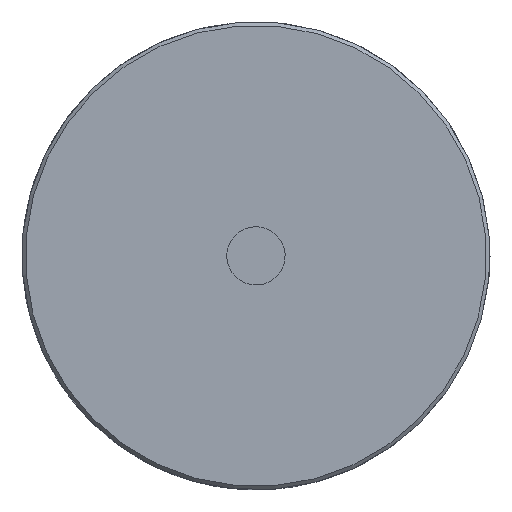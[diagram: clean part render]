
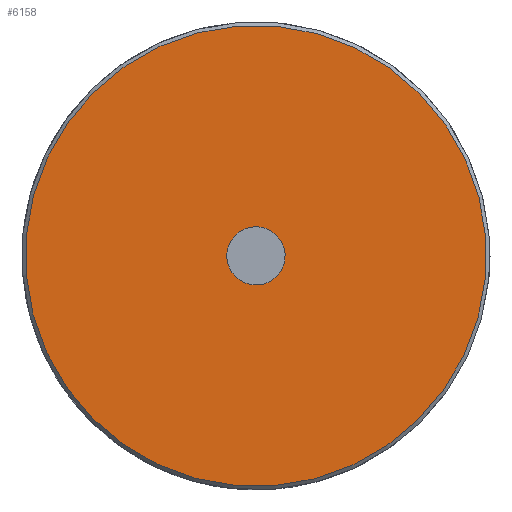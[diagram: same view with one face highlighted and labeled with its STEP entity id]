
A CAD part, front view. The second image highlights one B-rep face of the part: STEP entity #6158.
In plain terms, the highlighted planar face has unit normal (0, -1, 0).
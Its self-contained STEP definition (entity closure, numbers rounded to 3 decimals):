
#379 = FACE_OUTER_BOUND ( 'NONE', #9406, .T. ) ;
#1584 = DIRECTION ( 'NONE',  ( 0., 1., 0. ) ) ;
#2330 = ORIENTED_EDGE ( 'NONE', *, *, #8785, .F. ) ;
#3449 = DIRECTION ( 'NONE',  ( 0., 1., 0. ) ) ;
#3537 = DIRECTION ( 'NONE',  ( 1., 0., 0. ) ) ;
#4001 = EDGE_LOOP ( 'NONE', ( #18453 ) ) ;
#4221 = AXIS2_PLACEMENT_3D ( 'NONE', #4445, #1584, #4631 ) ;
#4445 = CARTESIAN_POINT ( 'NONE',  ( 52., -149.5, -3.527 ) ) ;
#4631 = DIRECTION ( 'NONE',  ( 0.702, 0., -0.712 ) ) ;
#4875 = CARTESIAN_POINT ( 'NONE',  ( -40.908, -149.5, -95.17 ) ) ;
#5304 = DIRECTION ( 'NONE',  ( 0., 1., 0. ) ) ;
#6158 = ADVANCED_FACE ( 'NONE', ( #379, #16582 ), #17937, .F. ) ;
#6920 = CARTESIAN_POINT ( 'NONE',  ( 52., -149.5, -3.527 ) ) ;
#8785 = EDGE_CURVE ( 'NONE', #17765, #17765, #18229, .T. ) ;
#9406 = EDGE_LOOP ( 'NONE', ( #2330 ) ) ;
#9593 = AXIS2_PLACEMENT_3D ( 'NONE', #4875, #3449, #3537 ) ;
#10965 = CARTESIAN_POINT ( 'NONE',  ( 63.587, -149.5, -15.274 ) ) ;
#12624 = DIRECTION ( 'NONE',  ( 0.702, 0., -0.712 ) ) ;
#13960 = EDGE_CURVE ( 'NONE', #16907, #16907, #15422, .T. ) ;
#15422 = CIRCLE ( 'NONE', #18181, 16.5 ) ;
#16582 = FACE_BOUND ( 'NONE', #4001, .T. ) ;
#16907 = VERTEX_POINT ( 'NONE', #10965 ) ;
#17676 = CARTESIAN_POINT ( 'NONE',  ( 143.643, -149.5, -96.435 ) ) ;
#17765 = VERTEX_POINT ( 'NONE', #17676 ) ;
#17937 = PLANE ( 'NONE',  #9593 ) ;
#18181 = AXIS2_PLACEMENT_3D ( 'NONE', #6920, #5304, #12624 ) ;
#18229 = CIRCLE ( 'NONE', #4221, 130.5 ) ;
#18453 = ORIENTED_EDGE ( 'NONE', *, *, #13960, .T. ) ;
